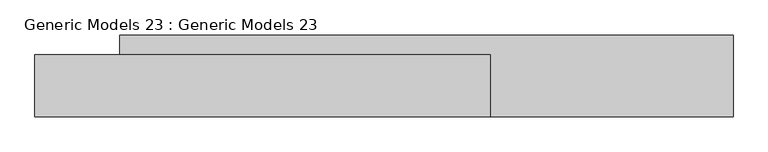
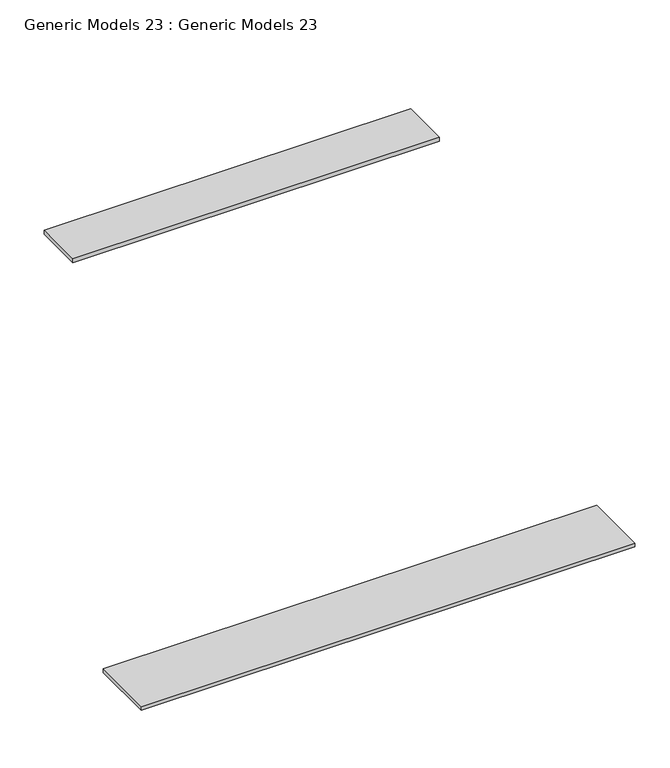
"""IFC4 building model written with IfcOpenShell, lengths in millimetres: proxy geometry, Generic Models 23 : Generic Models 23."""

from ifc_helpers import new_model, si_unit, frame, origin, place, context, project, spatial, polyline, outline, extrude, source, transform, mapped, element, save


def generic_models_23_generic_models_23_ff8ade86(model_context):
    return source(origin(), model_context, "Body", "SweptSolid", [
        extrude(outline(polyline([(-3354.4048434, -3849.4449025), (-3354.4048434, -4643.884564), (-9310.1539512, -4643.884564), (-9310.1539512, -3849.4449025), (-3354.4048434, -3849.4449025)])), frame((0.0, 0.0, 9000.0), z_axis=(0.0, 0.0, 1.0), x_axis=(1.0, 0.0, 0.0)), (0.0, 0.0, 1.0), 50.0),
        extrude(outline(polyline([(-10135.4354417, -4643.884564), (-10135.4354417, -4043.884564), (-5713.3274035, -4043.884564), (-5713.3274035, -4643.884564), (-10135.4354417, -4643.884564)])), frame((0.0, 0.0, 15000.0), z_axis=(0.0, 0.0, 1.0), x_axis=(1.0, 0.0, 0.0)), (0.0, 0.0, 1.0), 50.0),
    ])


if __name__ == "__main__":
    model = new_model("IFC4")
    model_context = context("Model", 3, world=origin())
    ifc_project = project(units=[si_unit("LENGTHUNIT", "METRE", prefix="MILLI")], contexts=[model_context])
    site = spatial("IfcSite", under=ifc_project)
    building = spatial("IfcBuilding", under=site)
    placement = place(None, origin())
    generic_models_23_generic_models_23_shape = generic_models_23_generic_models_23_ff8ade86(model_context)
    element("IfcBuildingElementProxy", 1, Name="Generic Models 23 : Generic Models 23", ObjectType="Generic Models 23 : Generic Models 23", at=placement, inside=building, context=model_context, shape_type="MappedRepresentation", body=[
        mapped(generic_models_23_generic_models_23_shape, transform((0.0, 0.0, 0.0), x_axis=(1.0, 0.0, 0.0), y_axis=(0.0, 1.0, 0.0), z_axis=(0.0, 0.0, 1.0))),
    ])
    save(model, "model.ifc")
